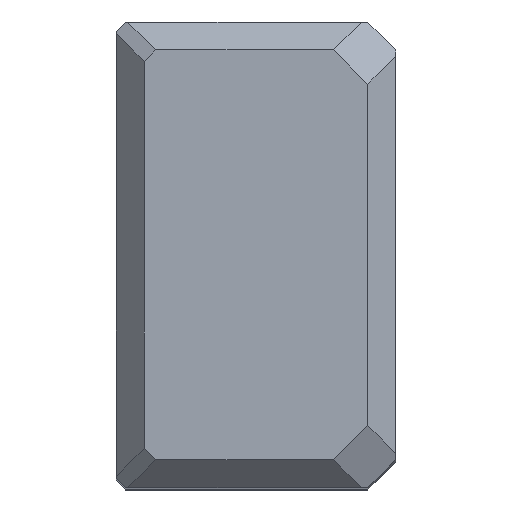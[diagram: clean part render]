
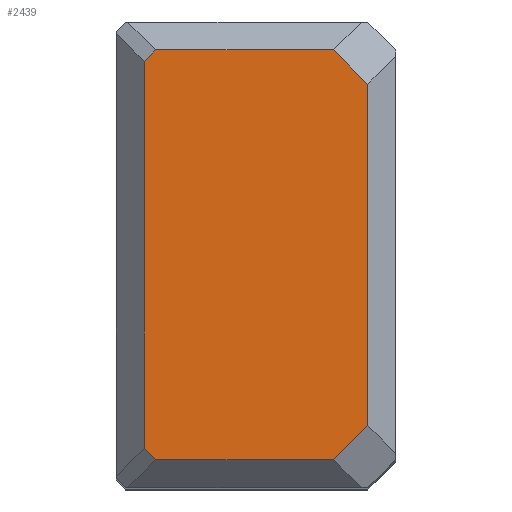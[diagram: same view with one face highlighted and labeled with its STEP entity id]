
A CAD part, top view. The second image highlights one B-rep face of the part: STEP entity #2439.
In plain terms, the highlighted planar face has unit normal (0, 0, 1).
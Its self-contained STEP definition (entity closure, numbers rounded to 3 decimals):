
#111=VERTEX_POINT(' ',#112);
#112=CARTESIAN_POINT('',(-3.,-18.326,0.));
#113=VERTEX_POINT(' ',#114);
#114=CARTESIAN_POINT('',(-6.674,-22.,0.));
#143=VERTEX_POINT(' ',#144);
#144=CARTESIAN_POINT('',(-3.,18.326,0.));
#151=VERTEX_POINT(' ',#152);
#152=CARTESIAN_POINT('',(-6.674,22.,0.));
#181=VERTEX_POINT(' ',#182);
#182=CARTESIAN_POINT('',(-25.775,-22.,0.));
#189=VERTEX_POINT(' ',#190);
#190=CARTESIAN_POINT('',(-27.,-20.775,0.));
#207=VERTEX_POINT(' ',#208);
#208=CARTESIAN_POINT('',(-27.,20.775,0.));
#211=VERTEX_POINT(' ',#212);
#212=CARTESIAN_POINT('',(-25.775,22.,0.));
#508=LINE('',#509,#510);
#509=CARTESIAN_POINT('',(7.663,-7.663,0.));
#510=VECTOR('',#511,1.);
#511=DIRECTION('',(0.707,0.707,0.));
#512=EDGE_CURVE(' ',#111,#113,#508,.F.);
#638=LINE('',#639,#640);
#639=CARTESIAN_POINT('',(-3.,-25.12,0.));
#640=VECTOR('',#641,1.);
#641=DIRECTION('',(0.,1.,0.));
#642=EDGE_CURVE(' ',#111,#143,#638,.T.);
#663=LINE('',#664,#665);
#664=CARTESIAN_POINT('',(7.663,7.663,0.));
#665=VECTOR('',#666,1.);
#666=DIRECTION('',(-0.707,0.707,0.));
#667=EDGE_CURVE(' ',#151,#143,#663,.F.);
#828=LINE('',#829,#830);
#829=CARTESIAN_POINT('',(-30.12,-22.,0.));
#830=VECTOR('',#831,1.);
#831=DIRECTION('',(1.,0.,0.));
#832=EDGE_CURVE(' ',#181,#113,#828,.T.);
#843=LINE('',#844,#845);
#844=CARTESIAN_POINT('',(-23.888,-23.888,0.));
#845=VECTOR('',#846,1.);
#846=DIRECTION('',(0.707,-0.707,0.));
#847=EDGE_CURVE(' ',#181,#189,#843,.F.);
#935=LINE('',#936,#937);
#936=CARTESIAN_POINT('',(-27.,-25.12,0.));
#937=VECTOR('',#938,1.);
#938=DIRECTION('',(0.,1.,0.));
#939=EDGE_CURVE(' ',#189,#207,#935,.T.);
#940=LINE('',#941,#942);
#941=CARTESIAN_POINT('',(-23.888,23.888,0.));
#942=VECTOR('',#943,1.);
#943=DIRECTION('',(-0.707,-0.707,0.));
#944=EDGE_CURVE(' ',#207,#211,#940,.F.);
#945=LINE('',#946,#947);
#946=CARTESIAN_POINT('',(-30.12,22.,0.));
#947=VECTOR('',#948,1.);
#948=DIRECTION('',(1.,0.,0.));
#949=EDGE_CURVE(' ',#151,#211,#945,.F.);
#2424=ORIENTED_EDGE('',*,*,#944,.F.);
#2425=ORIENTED_EDGE('',*,*,#939,.F.);
#2426=ORIENTED_EDGE('',*,*,#847,.F.);
#2427=ORIENTED_EDGE('',*,*,#832,.T.);
#2428=ORIENTED_EDGE('',*,*,#512,.F.);
#2429=ORIENTED_EDGE('',*,*,#642,.T.);
#2430=ORIENTED_EDGE('',*,*,#667,.F.);
#2431=ORIENTED_EDGE('',*,*,#949,.T.);
#2432=EDGE_LOOP('',(#2424,#2425,#2426,#2427,#2428,#2429,#2430,#2431));
#2433=FACE_OUTER_BOUND('',#2432,.T.);
#2434=PLANE('',#2435);
#2435=AXIS2_PLACEMENT_3D('',#2436,#2437,#2438);
#2436=CARTESIAN_POINT('',(-27.,0.,0.));
#2437=DIRECTION('',(0.,0.,1.));
#2438=DIRECTION('',(1.,0.,0.));
#2439=ADVANCED_FACE('',(#2433),#2434,.T.);
